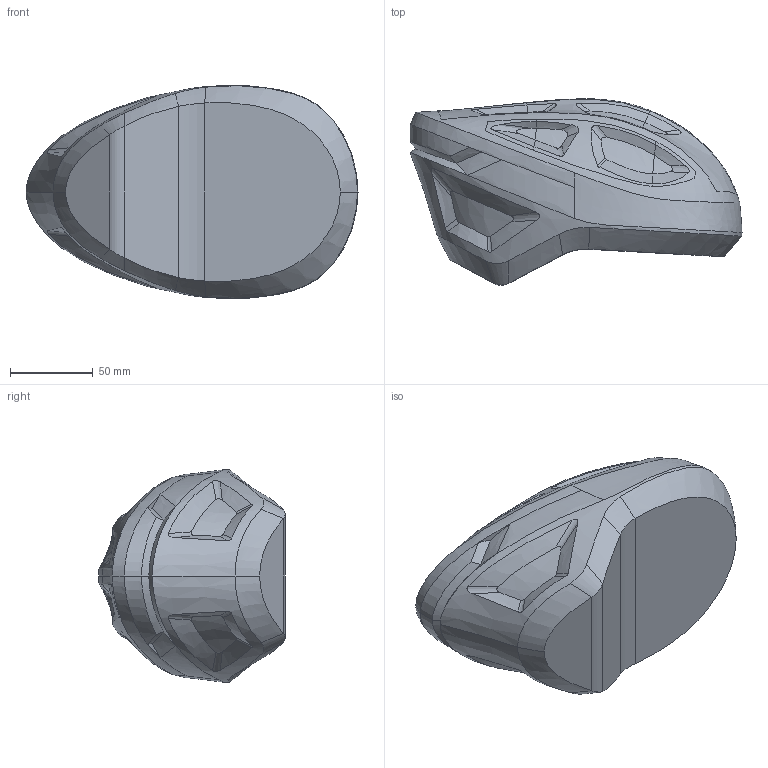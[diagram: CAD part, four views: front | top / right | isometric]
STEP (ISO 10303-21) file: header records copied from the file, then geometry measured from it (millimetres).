
FILE_DESCRIPTION((''),'2;1');
FILE_NAME('0001','2026-07-13T21:02:41',('82113'),(''),'CREO PARAMETRIC BY PTC INC, 2022073','CREO PARAMETRIC BY PTC INC, 2022073','');
FILE_SCHEMA(('AUTOMOTIVE_DESIGN { 1 0 10303 214 1 1 1 1 }'));
Length unit declared in the file: millimetre
Products named in the file (1): 0001
Bounding box: 200.75 x 112.73 x 128.68 mm (x, y, z)
Volume: 1395484.2 mm3; surface area: 72188.9 mm2
Topology: 1 solids, 1 shells, 157 faces, 406 edges, 255 vertices
Faces by surface type: bspline 150, plane 3, extrusion 2, cylinder 2
Entity records: 18427 total; most frequent: CARTESIAN_POINT 15498, ORIENTED_EDGE 812, EDGE_CURVE 406, B_SPLINE_CURVE_WITH_KNOTS 379, COLOUR_RGB 314, VERTEX_POINT 255, EDGE_LOOP 161, FACE_OUTER_BOUND 157
